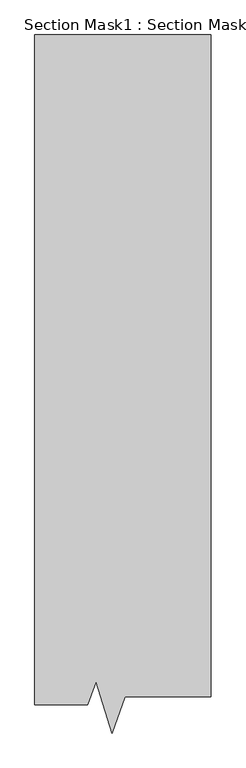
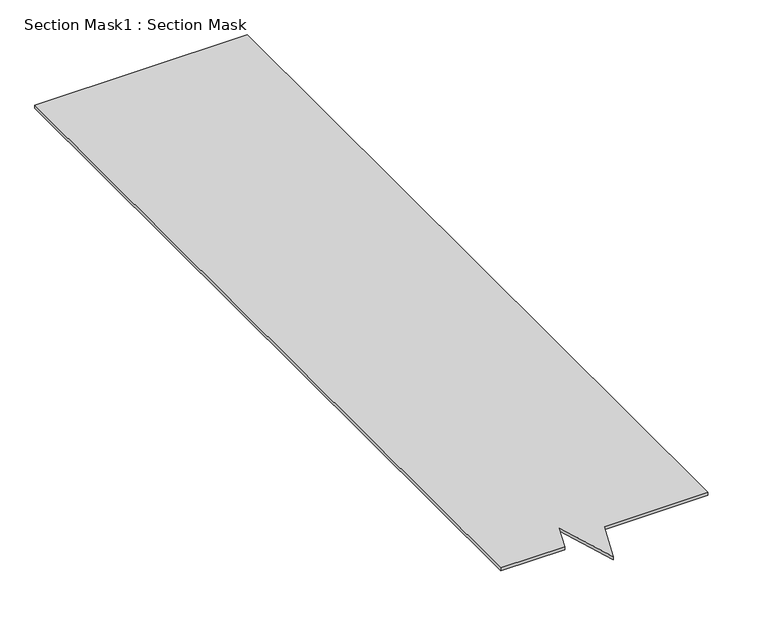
"""IFC4 building model written with IfcOpenShell, lengths in millimetres: proxy geometry, Section Mask1 : Section Mask."""

from ifc_helpers import new_model, si_unit, frame, origin, place, context, project, spatial, polyline, outline, extrude, source, transform, mapped, element, save


def section_mask1_section_mask_8dde975a(model_context):
    return source(origin(), model_context, "Body", "SweptSolid", [
        extrude(outline(polyline([(8137.364325, 612.223934), (7992.087697, 612.223934), (7992.087697, 2446.4114947), (8475.4899546, 2446.4114947), (8475.4899546, 633.0724056), (8239.9982256, 633.0724056), (8203.3813689, 533.9095639), (8160.3812645, 674.5565681), (8137.364325, 612.223934)])), frame((0.0, 0.0, 45.0273345), z_axis=(0.0, 0.0, 1.0), x_axis=(1.0, 0.0, 0.0)), (0.0, 0.0, 1.0), 7.2631445),
    ])


if __name__ == "__main__":
    model = new_model("IFC4")
    model_context = context("Model", 3, world=origin())
    ifc_project = project(units=[si_unit("LENGTHUNIT", "METRE", prefix="MILLI")], contexts=[model_context])
    site = spatial("IfcSite", under=ifc_project)
    building = spatial("IfcBuilding", under=site)
    placement = place(None, origin())
    section_mask1_section_mask_shape = section_mask1_section_mask_8dde975a(model_context)
    element("IfcBuildingElementProxy", 1, Name="Section Mask1 : Section Mask", ObjectType="Section Mask1 : Section Mask", at=placement, inside=building, context=model_context, shape_type="MappedRepresentation", body=[
        mapped(section_mask1_section_mask_shape, transform((0.0, 0.0, 0.0), x_axis=(1.0, 0.0, 0.0), y_axis=(0.0, 1.0, 0.0), z_axis=(0.0, 0.0, 1.0))),
    ])
    save(model, "model.ifc")
